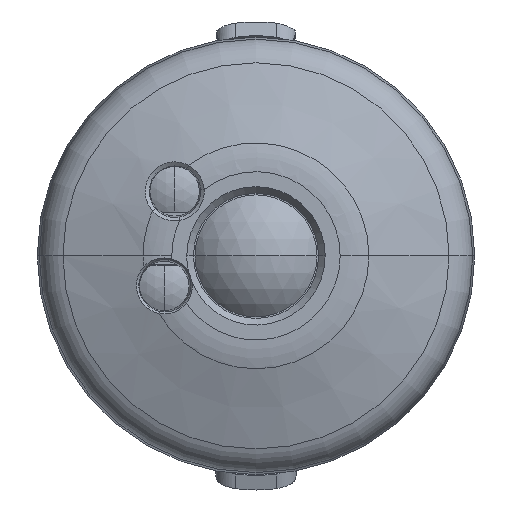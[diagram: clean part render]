
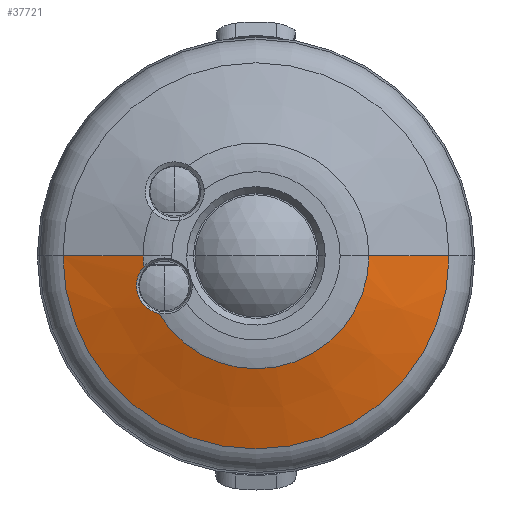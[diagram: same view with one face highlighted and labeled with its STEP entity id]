
A CAD part, front view. The second image highlights one B-rep face of the part: STEP entity #37721.
In plain terms, the highlighted conical face has half-angle 71.274 degrees and reference radius 8.325 mm.
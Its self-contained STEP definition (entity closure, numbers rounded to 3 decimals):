
#4323 = CARTESIAN_POINT ( 'NONE',  ( -8.522, 0.439, -1.09 ) ) ;
#12961 = CARTESIAN_POINT ( 'NONE',  ( -8.325, 0.349, 0. ) ) ;
#15767 = CIRCLE ( 'NONE', #60959, 8.325 ) ;
#16708 = VERTEX_POINT ( 'NONE', #59084 ) ;
#21226 = CARTESIAN_POINT ( 'NONE',  ( 8.325, 0.349, 0. ) ) ;
#22018 = EDGE_CURVE ( 'NONE', #41559, #64243, #15767, .T. ) ;
#23316 = CARTESIAN_POINT ( 'NONE',  ( -8.25, 0.584, -3.643 ) ) ;
#28613 = EDGE_CURVE ( 'NONE', #78440, #38525, #123145, .T. ) ;
#29596 = CARTESIAN_POINT ( 'NONE',  ( 8.325, 0.349, 0. ) ) ;
#31177 = EDGE_CURVE ( 'NONE', #64243, #53120, #105671, .T. ) ;
#32061 = DIRECTION ( 'NONE',  ( -1., 0., 0. ) ) ;
#32096 = EDGE_CURVE ( 'NONE', #16708, #53120, #105074, .T. ) ;
#32209 = DIRECTION ( 'NONE',  ( 0., 1., 0. ) ) ;
#32489 = CARTESIAN_POINT ( 'NONE',  ( 0., 2.353, 0. ) ) ;
#33086 = CARTESIAN_POINT ( 'NONE',  ( -8.521, 0.622, -3.274 ) ) ;
#37721 = ADVANCED_FACE ( 'NONE', ( #44006 ), #41014, .T. ) ;
#38525 = VERTEX_POINT ( 'NONE', #90499 ) ;
#39345 = DIRECTION ( 'NONE',  ( 0.947, 0.321, 0. ) ) ;
#40660 = CARTESIAN_POINT ( 'NONE',  ( -8.284, 0.349, -0.824 ) ) ;
#41014 = CONICAL_SURFACE ( 'NONE', #67186, 8.325, 1.244 ) ;
#41559 = VERTEX_POINT ( 'NONE', #40660 ) ;
#42789 = CARTESIAN_POINT ( 'NONE',  ( -8.646, 0.633, -3.03 ) ) ;
#44006 = FACE_OUTER_BOUND ( 'NONE', #118007, .T. ) ;
#48947 = LINE ( 'NONE', #29596, #100164 ) ;
#49396 = CARTESIAN_POINT ( 'NONE',  ( 0., 0.349, 0. ) ) ;
#50656 = DIRECTION ( 'NONE',  ( 0., 1., 0. ) ) ;
#52428 = CARTESIAN_POINT ( 'NONE',  ( -8.824, 0.635, -2.509 ) ) ;
#52451 = DIRECTION ( 'NONE',  ( -1., 0., 0. ) ) ;
#52745 = ORIENTED_EDGE ( 'NONE', *, *, #94821, .F. ) ;
#53120 = VERTEX_POINT ( 'NONE', #107304 ) ;
#53314 = EDGE_CURVE ( 'NONE', #38525, #41559, #65215, .T. ) ;
#55298 = DIRECTION ( 'NONE',  ( -1., 0., 0. ) ) ;
#55898 = ORIENTED_EDGE ( 'NONE', *, *, #28613, .T. ) ;
#56541 = ORIENTED_EDGE ( 'NONE', *, *, #53314, .T. ) ;
#59084 = CARTESIAN_POINT ( 'NONE',  ( 14.235, 2.353, 0. ) ) ;
#60372 = ORIENTED_EDGE ( 'NONE', *, *, #22018, .T. ) ;
#60959 = AXIS2_PLACEMENT_3D ( 'NONE', #80992, #99216, #55298 ) ;
#61564 = CARTESIAN_POINT ( 'NONE',  ( -7.51, 0.438, -4.169 ) ) ;
#61997 = CARTESIAN_POINT ( 'NONE',  ( -8.691, 0.511, -1.42 ) ) ;
#64243 = VERTEX_POINT ( 'NONE', #12961 ) ;
#65215 = B_SPLINE_CURVE_WITH_KNOTS ( 'NONE', 3,
 ( #71329, #61564, #81036, #23316, #90824, #33086, #100425, #42789, #110167, #52428, #119839, #61997, #4323, #71741 ),
 .UNSPECIFIED., .F., .F.,
 ( 4, 2, 2, 2, 2, 2, 4 ),
 ( 0., 0.25, 0.375, 0.437, 0.5, 0.75, 1. ),
 .UNSPECIFIED. ) ;
#67186 = AXIS2_PLACEMENT_3D ( 'NONE', #49396, #50656, #52451 ) ;
#69213 = ORIENTED_EDGE ( 'NONE', *, *, #31177, .T. ) ;
#71329 = CARTESIAN_POINT ( 'NONE',  ( -7.163, 0.349, -4.242 ) ) ;
#71741 = CARTESIAN_POINT ( 'NONE',  ( -8.284, 0.349, -0.824 ) ) ;
#72702 = ORIENTED_EDGE ( 'NONE', *, *, #32096, .F. ) ;
#78440 = VERTEX_POINT ( 'NONE', #21226 ) ;
#80992 = CARTESIAN_POINT ( 'NONE',  ( 0., 0.349, 0. ) ) ;
#81036 = CARTESIAN_POINT ( 'NONE',  ( -7.842, 0.51, -4.004 ) ) ;
#90499 = CARTESIAN_POINT ( 'NONE',  ( -7.163, 0.349, -4.242 ) ) ;
#90824 = CARTESIAN_POINT ( 'NONE',  ( -8.371, 0.603, -3.503 ) ) ;
#91642 = DIRECTION ( 'NONE',  ( -0.947, 0.321, 0. ) ) ;
#91752 = CARTESIAN_POINT ( 'NONE',  ( -8.325, 0.349, 0. ) ) ;
#92682 = AXIS2_PLACEMENT_3D ( 'NONE', #114659, #114622, #114501 ) ;
#94821 = EDGE_CURVE ( 'NONE', #78440, #16708, #48947, .T. ) ;
#99216 = DIRECTION ( 'NONE',  ( 0., 1., 0. ) ) ;
#100164 = VECTOR ( 'NONE', #39345, 1000. ) ;
#100425 = CARTESIAN_POINT ( 'NONE',  ( -8.566, 0.627, -3.196 ) ) ;
#105074 = CIRCLE ( 'NONE', #113320, 14.235 ) ;
#105671 = LINE ( 'NONE', #91752, #114720 ) ;
#107304 = CARTESIAN_POINT ( 'NONE',  ( -14.235, 2.353, 0. ) ) ;
#110167 = CARTESIAN_POINT ( 'NONE',  ( -8.681, 0.635, -2.944 ) ) ;
#113320 = AXIS2_PLACEMENT_3D ( 'NONE', #32489, #32209, #32061 ) ;
#114501 = DIRECTION ( 'NONE',  ( -1., 0., 0. ) ) ;
#114622 = DIRECTION ( 'NONE',  ( 0., 1., 0. ) ) ;
#114659 = CARTESIAN_POINT ( 'NONE',  ( 0., 0.349, 0. ) ) ;
#114720 = VECTOR ( 'NONE', #91642, 1000. ) ;
#118007 = EDGE_LOOP ( 'NONE', ( #52745, #55898, #56541, #60372, #69213, #72702 ) ) ;
#119839 = CARTESIAN_POINT ( 'NONE',  ( -8.843, 0.609, -2.132 ) ) ;
#123145 = CIRCLE ( 'NONE', #92682, 8.325 ) ;
